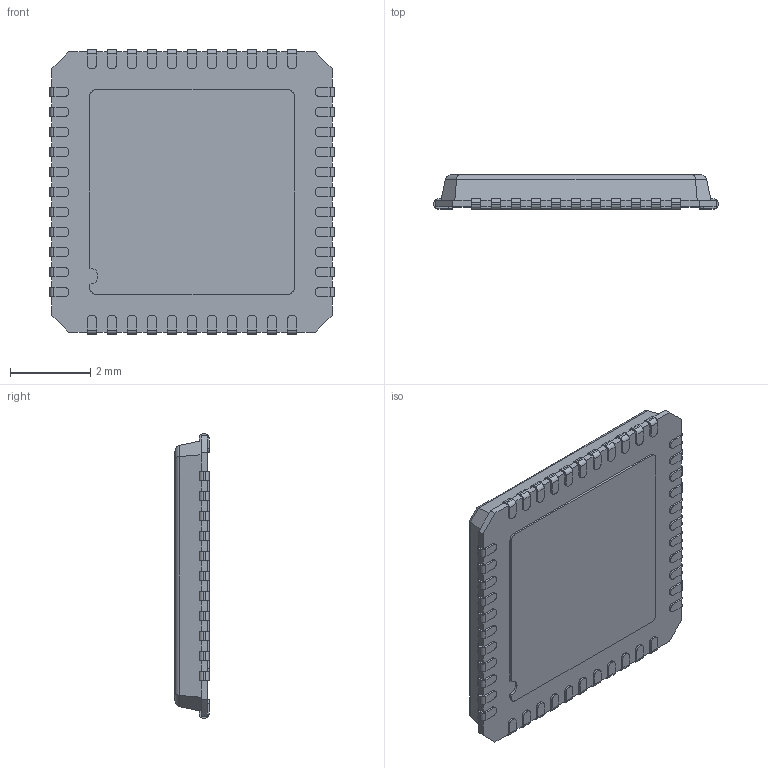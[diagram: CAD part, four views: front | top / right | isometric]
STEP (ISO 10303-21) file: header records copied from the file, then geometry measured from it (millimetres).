
FILE_DESCRIPTION (( 'STEP AP214' ), '1' );
FILE_NAME ('QFN50P700X700-44.STEP', '2011-01-31T09:26:11', ( 'vpeshkov' ), ( 'licard' ), 'SwSTEP 2.0', 'SolidWorks 2009', '' );
FILE_SCHEMA (( 'AUTOMOTIVE_DESIGN' ));
Length unit declared in the file: millimetre
Products named in the file (1): QFN50P700X700-44
Bounding box: 7.1 x 0.85 x 7.1 mm (x, y, z)
Volume: 37.2 mm3; surface area: 119.4 mm2
Topology: 1 solids, 1 shells, 571 faces, 1690 edges, 1124 vertices
Faces by surface type: plane 378, cylinder 193
Entity records: 24025 total; most frequent: CARTESIAN_POINT 3410, ORIENTED_EDGE 3380, DIRECTION 3196, EDGE_CURVE 1690, VECTOR 1312, LINE 1312, VERTEX_POINT 1124, AXIS2_PLACEMENT_3D 942
